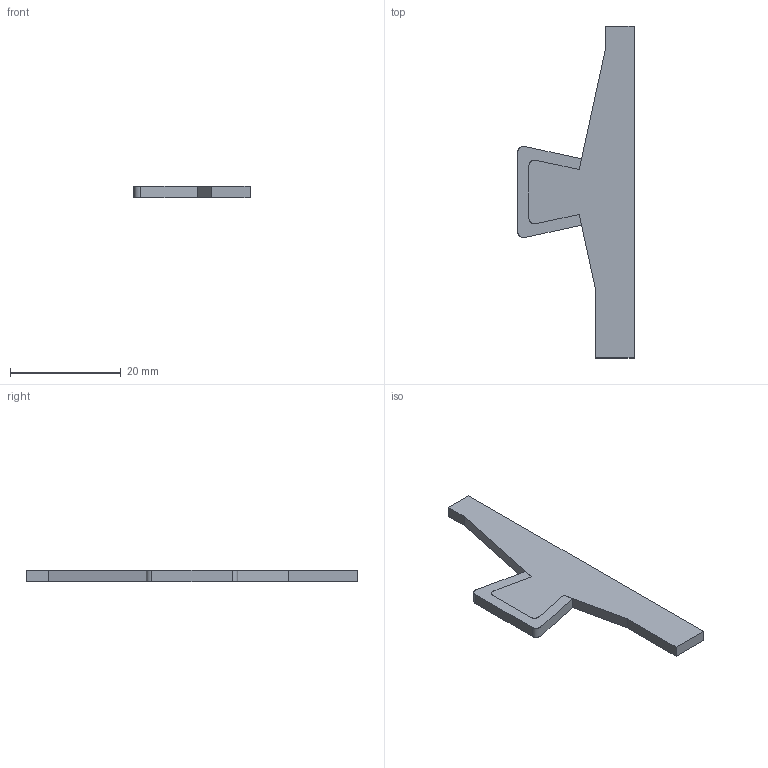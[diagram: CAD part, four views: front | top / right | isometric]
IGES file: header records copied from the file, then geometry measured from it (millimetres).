
Start section: SolidWorks IGES file using analytic representation for surfaces
Global section: file name: C:\Documents and Settings\URETIM3\Desktop\yeni katalog tolgay düzenli\E kataloðu\AY  ALT YATAKLAMA VE YAN DESTEK PROFÝLÝ\206 AY3 202.IGS; native system: SolidWorks 2006 by SolidWorks Corporation; preprocessor: SolidWorks 2006 by SolidWorks Corporation; author: URETIM3; date: 060913.094606; units: millimetre
Bounding box: 21 x 60 x 2 mm (x, y, z)
Surface area: 1712.1 mm2 (no closed solid volume)
Topology: 0 solids, 0 shells, 28 faces, 228 edges, 228 vertices
Faces by surface type: bspline 22, revolution 6
